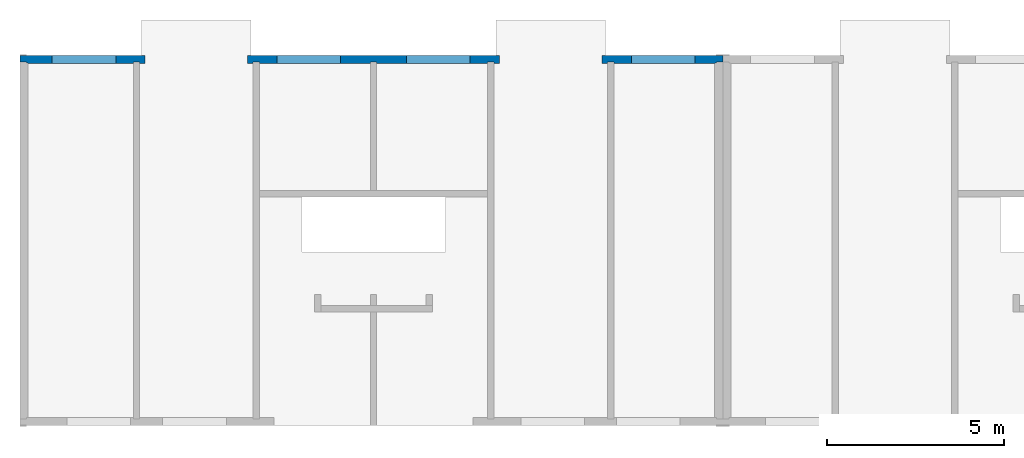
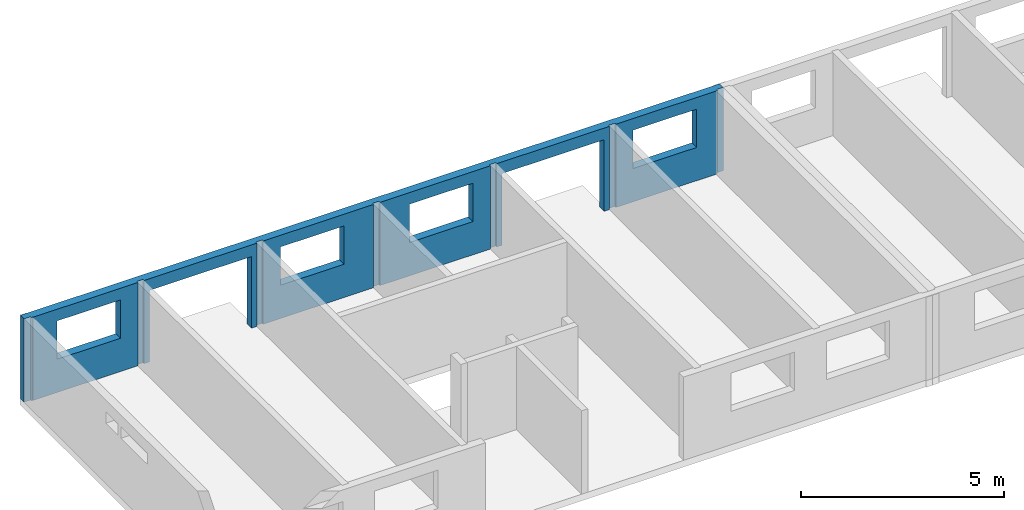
# One storey, part 3 of 9: 1 wall, 6 openings.
"""IFC2X3 building model written with IfcOpenShell, lengths in millimetres."""

from ifc_helpers import new_model, entity, si_unit, converted_unit, frame, frame_2d, origin, origin_with_axes, place, context, subcontext, project, spatial, polyline, rectangle, outline, extrude, material, layer, layer_set, layer_usage, element, save


model = new_model("IFC2X3")

# Units and contexts
model_context = context("Model", 3, precision=1e-05, world=origin())
plan_context = context("Plan", 3, precision=1e-05, world=origin())
body_context = subcontext(model_context, "Body", "Model", "MODEL_VIEW")
ifc_project = project(units=[si_unit("LENGTHUNIT", "METRE", prefix="MILLI"), converted_unit("PLANEANGLEUNIT", "DEGREE", entity("IfcPlaneAngleMeasure", 0.0174532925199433), si_unit("PLANEANGLEUNIT", "RADIAN"), dimensions=[0, 0, 0, 0, 0, 0, 0]), si_unit("AREAUNIT", "SQUARE_METRE"), si_unit("VOLUMEUNIT", "CUBIC_METRE")], contexts=[model_context, plan_context])

# Building, storey
building_placement = place(None, origin())
building = spatial("IfcBuilding", under=ifc_project, at=building_placement, Name="Bâtiment", CompositionType="ELEMENT")
storey_placement = place(building_placement, frame((0.0, 0.0, 5400.0), z_axis=(0.0, 0.0, 1.0), x_axis=(1.0, 0.0, 0.0)))
storey = spatial("IfcBuildingStorey", under=building, at=storey_placement, Name="r+2", CompositionType="ELEMENT", Elevation=5400.0)

# Wall, openings
ifc_material_1 = material(Name="moellons")
ifc_layer_1 = layer(ifc_material_1, 180.0)
ifc_material_2 = material(Name="briquettes")
ifc_layer_2 = layer(ifc_material_2, 40.0)
ifc_material_3 = material(Name="enduit platre")
ifc_layer_3 = layer(ifc_material_3, 10.0)
ifc_layer_set = layer_set([ifc_layer_1, ifc_layer_2, ifc_layer_3])
ifc_layer_usage = layer_usage(ifc_layer_set, "AXIS2", "POSITIVE", 0.0)
wall_placement = place(storey_placement, frame((19849.99999999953, 10470.07776548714, 0.0), z_axis=(0.0, 0.0, 1.0), x_axis=(-1.0, 9.163674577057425e-17, 0.0)))
wall = element("IfcWallStandardCase", 1, at=wall_placement, inside=storey, material=ifc_layer_usage, context=body_context, shape_type="SweptSolid", body=[
    extrude(outline(polyline([(16649.99999999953, 179.9999999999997), (16469.99999999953, 179.9999999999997), (16469.99999999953, 229.9999999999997), (13269.99999999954, 229.9999999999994), (13269.99999999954, 179.9999999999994), (13089.99999999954, 179.9999999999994), (13089.99999999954, 229.9999999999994), (9954.999999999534, 230.0000000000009), (9954.999999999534, 180.0000000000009), (9774.999999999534, 180.0000000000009), (9774.999999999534, 230.0000000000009), (6640.000061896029, 230.0000000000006), (6640.000061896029, 180.0000000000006), (6460.000061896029, 180.0000000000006), (6460.000061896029, 230.0000000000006), (3259.999999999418, 230.0000000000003), (3259.999999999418, 180.0000000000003), (3079.999999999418, 180.0000000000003), (3079.999999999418, 230.0000000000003), (220.0, 230.0), (220.0, 220.0), (180.0, 220.0), (180.0, 180.0), (-1.649461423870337e-14, 180.0), (0.0, 0.0), (19849.99999999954, 0.0), (19849.99999999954, 180.0), (19669.99999999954, 180.0), (19669.99999999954, 220.0), (19629.99999999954, 220.0), (19629.99999999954, 230.0), (16649.99999999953, 229.9999999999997), (16649.99999999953, 179.9999999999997)])), origin_with_axes(), (0.0, 0.0, 1.0), 2500.0),
])
opening_1_placement = place(wall_placement, frame((17144.9999999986, -1.818989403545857e-12, 1000.0), z_axis=(0.0, 1.0, 0.0), x_axis=(0.0, 0.0, 1.0)))
element("IfcOpeningElement", 2, at=opening_1_placement, cuts=wall, Name="Baie de fenêtre", ObjectType="Opening", context=body_context, shape_type="SweptSolid", body=[
    extrude(rectangle(XDim=1150.0, YDim=1800.0, at=frame_2d((575.0, 900.0), x_axis=(1.0, 0.0))), origin_with_axes(), (0.0, 0.0, 1.0), 230.0),
])
opening_2_placement = place(wall_placement, frame((10794.99999999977, -1.818989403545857e-12, 1000.0), z_axis=(0.0, 1.0, 0.0), x_axis=(0.0, 0.0, 1.0)))
element("IfcOpeningElement", 3, at=opening_2_placement, cuts=wall, Name="Baie de fenêtre", ObjectType="Opening", context=body_context, shape_type="SweptSolid", body=[
    extrude(rectangle(XDim=1150.0, YDim=1799.999999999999, at=frame_2d((575.0, 899.9999999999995), x_axis=(1.0, 0.0))), origin_with_axes(), (0.0, 0.0, 1.0), 230.0),
])
opening_3_placement = place(wall_placement, frame((7134.999999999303, 0.0, 1000.0), z_axis=(0.0, 1.0, 0.0), x_axis=(0.0, 0.0, 1.0)))
element("IfcOpeningElement", 4, at=opening_3_placement, cuts=wall, Name="Baie de fenêtre", ObjectType="Opening", context=body_context, shape_type="SweptSolid", body=[
    extrude(rectangle(XDim=1150.0, YDim=1800.0, at=frame_2d((575.0, 900.0), x_axis=(1.0, 0.0))), origin_with_axes(), (0.0, 0.0, 1.0), 230.0),
])
opening_4_placement = place(wall_placement, frame((784.9999999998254, 0.0, 1000.0), z_axis=(0.0, 1.0, 0.0), x_axis=(0.0, 0.0, 1.0)))
element("IfcOpeningElement", 5, at=opening_4_placement, cuts=wall, Name="Baie de fenêtre", ObjectType="Opening", context=body_context, shape_type="SweptSolid", body=[
    extrude(rectangle(XDim=1150.0, YDim=1800.0, at=frame_2d((575.0, 900.0), x_axis=(1.0, 0.0))), origin_with_axes(), (0.0, 0.0, 1.0), 230.0),
])
opening_5_placement = place(wall_placement, frame((13419.62981094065, -1.818989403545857e-12, 0.0), z_axis=(0.0, 1.0, 0.0), x_axis=(0.0, 0.0, 1.0)))
element("IfcOpeningElement", 6, at=opening_5_placement, cuts=wall, Name="Baie de porte", ObjectType="Opening", context=body_context, shape_type="SweptSolid", body=[
    extrude(rectangle(XDim=2150.0, YDim=2900.0, at=frame_2d((1075.0, 1450.0), x_axis=(1.0, 0.0))), origin_with_axes(), (0.0, 0.0, 1.0), 230.0),
])
opening_6_placement = place(wall_placement, frame((3410.031276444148, 0.0, 0.0), z_axis=(0.0, 1.0, 0.0), x_axis=(0.0, 0.0, 1.0)))
element("IfcOpeningElement", 7, at=opening_6_placement, cuts=wall, Name="Baie de porte", ObjectType="Opening", context=body_context, shape_type="SweptSolid", body=[
    extrude(rectangle(XDim=2150.0, YDim=2900.0, at=frame_2d((1075.0, 1450.0), x_axis=(1.0, 0.0))), origin_with_axes(), (0.0, 0.0, 1.0), 230.0),
])

save(model, "model.ifc")
